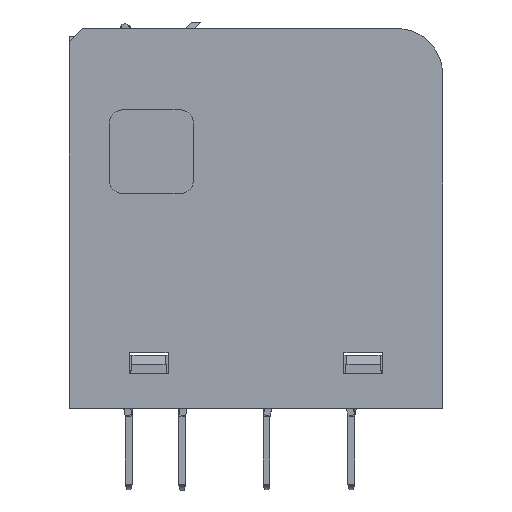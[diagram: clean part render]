
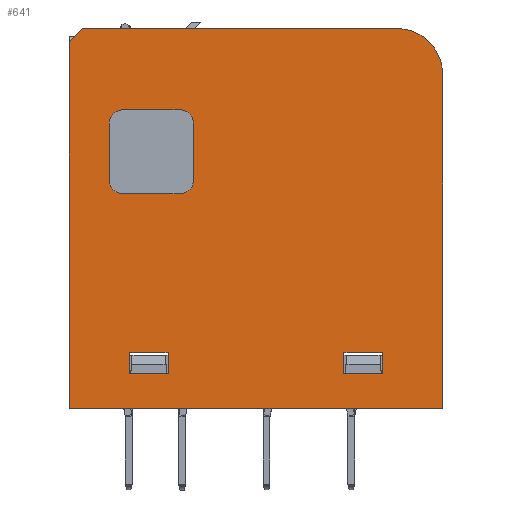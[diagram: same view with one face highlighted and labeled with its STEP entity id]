
A CAD part, top view. The second image highlights one B-rep face of the part: STEP entity #641.
In plain terms, the highlighted planar face has unit normal (0, 0, 1).
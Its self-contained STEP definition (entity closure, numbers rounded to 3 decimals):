
#641=ADVANCED_FACE('',(#8837,#8839,#8841,#8843),#8845,.T.);
#8837=FACE_BOUND('',#8838,.T.);
#8838=EDGE_LOOP('',(#15518,#15519,#15520,#15521,#15522,#15523));
#8839=FACE_BOUND('',#8840,.T.);
#8840=EDGE_LOOP('',(#15524,#15525,#15526,#15527,#15528,#15529,#15530,#15531));
#8841=FACE_BOUND('',#8842,.T.);
#8842=EDGE_LOOP('',(#15532,#15533,#15534,#15535));
#8843=FACE_BOUND('',#8844,.T.);
#8844=EDGE_LOOP('',(#15536,#15537,#15538,#15539));
#8845=PLANE('',#8846);
#8846=AXIS2_PLACEMENT_3D('',#8847,#8848,#8849);
#8847=CARTESIAN_POINT('',(0.,14.4,11.25));
#8848=DIRECTION('',(0.,0.,1.));
#8849=DIRECTION('',(0.,-1.,0.));
#15518=ORIENTED_EDGE('',*,*,#20133,.F.);
#15519=ORIENTED_EDGE('',*,*,#20134,.T.);
#15520=ORIENTED_EDGE('',*,*,#20135,.T.);
#15521=ORIENTED_EDGE('',*,*,#20136,.T.);
#15522=ORIENTED_EDGE('',*,*,#20137,.T.);
#15523=ORIENTED_EDGE('',*,*,#20138,.T.);
#15524=ORIENTED_EDGE('',*,*,#20139,.T.);
#15525=ORIENTED_EDGE('',*,*,#20140,.T.);
#15526=ORIENTED_EDGE('',*,*,#20141,.T.);
#15527=ORIENTED_EDGE('',*,*,#20142,.T.);
#15528=ORIENTED_EDGE('',*,*,#20143,.T.);
#15529=ORIENTED_EDGE('',*,*,#20144,.T.);
#15530=ORIENTED_EDGE('',*,*,#20145,.T.);
#15531=ORIENTED_EDGE('',*,*,#20146,.T.);
#15532=ORIENTED_EDGE('',*,*,#20147,.T.);
#15533=ORIENTED_EDGE('',*,*,#19903,.T.);
#15534=ORIENTED_EDGE('',*,*,#19875,.T.);
#15535=ORIENTED_EDGE('',*,*,#19972,.T.);
#15536=ORIENTED_EDGE('',*,*,#20148,.T.);
#15537=ORIENTED_EDGE('',*,*,#19917,.T.);
#15538=ORIENTED_EDGE('',*,*,#19867,.T.);
#15539=ORIENTED_EDGE('',*,*,#19912,.T.);
#19867=EDGE_CURVE('',#22288,#22286,#22289,.F.);
#19875=EDGE_CURVE('',#22304,#22302,#22305,.F.);
#19903=EDGE_CURVE('',#22354,#22304,#22355,.F.);
#19912=EDGE_CURVE('',#22286,#22368,#22370,.F.);
#19917=EDGE_CURVE('',#22378,#22288,#22379,.F.);
#19972=EDGE_CURVE('',#22302,#22475,#22477,.F.);
#20133=EDGE_CURVE('',#22738,#22739,#22740,.F.);
#20134=EDGE_CURVE('',#22738,#22741,#22742,.T.);
#20135=EDGE_CURVE('',#22741,#22743,#22744,.T.);
#20136=EDGE_CURVE('',#22743,#22745,#22746,.T.);
#20137=EDGE_CURVE('',#22745,#22747,#22748,.T.);
#20138=EDGE_CURVE('',#22747,#22739,#22749,.T.);
#20139=EDGE_CURVE('',#22750,#22751,#22752,.F.);
#20140=EDGE_CURVE('',#22751,#22753,#22754,.F.);
#20141=EDGE_CURVE('',#22753,#22755,#22756,.F.);
#20142=EDGE_CURVE('',#22755,#22757,#22758,.F.);
#20143=EDGE_CURVE('',#22757,#22759,#22760,.F.);
#20144=EDGE_CURVE('',#22759,#22761,#22762,.F.);
#20145=EDGE_CURVE('',#22761,#22763,#22764,.F.);
#20146=EDGE_CURVE('',#22763,#22750,#22765,.F.);
#20147=EDGE_CURVE('',#22475,#22354,#22766,.F.);
#20148=EDGE_CURVE('',#22368,#22378,#22767,.F.);
#22286=VERTEX_POINT('',#26237);
#22288=VERTEX_POINT('',#26241);
#22289=LINE('',#26242,#26243);
#22302=VERTEX_POINT('',#26269);
#22304=VERTEX_POINT('',#26273);
#22305=LINE('',#26274,#26275);
#22354=VERTEX_POINT('',#26379);
#22355=LINE('',#26380,#26381);
#22368=VERTEX_POINT('',#26409);
#22370=LINE('',#26413,#26414);
#22378=VERTEX_POINT('',#26431);
#22379=LINE('',#26432,#26433);
#22475=VERTEX_POINT('',#26638);
#22477=LINE('',#26642,#26643);
#22738=VERTEX_POINT('',#27254);
#22739=VERTEX_POINT('',#27255);
#22740=LINE('',#27256,#27257);
#22741=VERTEX_POINT('',#27259);
#22742=LINE('',#27260,#27261);
#22743=VERTEX_POINT('',#27263);
#22744=LINE('',#27264,#27265);
#22745=VERTEX_POINT('',#27267);
#22746=LINE('',#27268,#27269);
#22747=VERTEX_POINT('',#27271);
#22748=CIRCLE('',#27272,3.4);
#22749=LINE('',#27276,#27277);
#22750=VERTEX_POINT('',#27279);
#22751=VERTEX_POINT('',#27280);
#22752=CIRCLE('',#27281,1.);
#22753=VERTEX_POINT('',#27285);
#22754=LINE('',#27286,#27287);
#22755=VERTEX_POINT('',#27289);
#22756=CIRCLE('',#27290,1.);
#22757=VERTEX_POINT('',#27294);
#22758=LINE('',#27295,#27296);
#22759=VERTEX_POINT('',#27298);
#22760=CIRCLE('',#27299,1.);
#22761=VERTEX_POINT('',#27303);
#22762=LINE('',#27304,#27305);
#22763=VERTEX_POINT('',#27307);
#22764=CIRCLE('',#27308,1.);
#22765=LINE('',#27312,#27313);
#22766=LINE('',#27315,#27316);
#22767=LINE('',#27318,#27319);
#26237=CARTESIAN_POINT('',(6.6,2.6,11.25));
#26241=CARTESIAN_POINT('',(9.5,2.6,11.25));
#26242=CARTESIAN_POINT('',(6.6,2.6,11.25));
#26243=VECTOR('',#26244,1.);
#26244=DIRECTION('',(1.,0.,0.));
#26269=CARTESIAN_POINT('',(-9.5,2.6,11.25));
#26273=CARTESIAN_POINT('',(-6.6,2.6,11.25));
#26274=CARTESIAN_POINT('',(-9.5,2.6,11.25));
#26275=VECTOR('',#26276,1.);
#26276=DIRECTION('',(1.,0.,0.));
#26379=CARTESIAN_POINT('',(-6.6,4.2,11.25));
#26380=CARTESIAN_POINT('',(-6.6,2.6,11.25));
#26381=VECTOR('',#26382,1.);
#26382=DIRECTION('',(0.,1.,0.));
#26409=CARTESIAN_POINT('',(6.6,4.2,11.25));
#26413=CARTESIAN_POINT('',(6.6,4.2,11.25));
#26414=VECTOR('',#26415,1.);
#26415=DIRECTION('',(0.,-1.,0.));
#26431=CARTESIAN_POINT('',(9.5,4.2,11.25));
#26432=CARTESIAN_POINT('',(9.5,2.6,11.25));
#26433=VECTOR('',#26434,1.);
#26434=DIRECTION('',(0.,1.,0.));
#26638=CARTESIAN_POINT('',(-9.5,4.2,11.25));
#26642=CARTESIAN_POINT('',(-9.5,4.2,11.25));
#26643=VECTOR('',#26644,1.);
#26644=DIRECTION('',(0.,-1.,0.));
#27254=CARTESIAN_POINT('',(-14.,27.5,11.25));
#27255=CARTESIAN_POINT('',(-13.,28.5,11.25));
#27256=CARTESIAN_POINT('',(-13.,28.5,11.25));
#27257=VECTOR('',#27258,1.);
#27258=DIRECTION('',(-0.707,-0.707,0.));
#27259=CARTESIAN_POINT('',(-14.,0.,11.25));
#27260=CARTESIAN_POINT('',(-14.,27.5,11.25));
#27261=VECTOR('',#27262,1.);
#27262=DIRECTION('',(0.,-1.,0.));
#27263=CARTESIAN_POINT('',(14.,0.,11.25));
#27264=CARTESIAN_POINT('',(-14.,0.,11.25));
#27265=VECTOR('',#27266,1.);
#27266=DIRECTION('',(1.,0.,0.));
#27267=CARTESIAN_POINT('',(14.,25.1,11.25));
#27268=CARTESIAN_POINT('',(14.,0.,11.25));
#27269=VECTOR('',#27270,1.);
#27270=DIRECTION('',(0.,1.,0.));
#27271=CARTESIAN_POINT('',(10.6,28.5,11.25));
#27272=AXIS2_PLACEMENT_3D('',#27273,#27274,#27275);
#27273=CARTESIAN_POINT('',(10.6,25.1,11.25));
#27274=DIRECTION('',(0.,0.,1.));
#27275=DIRECTION('',(1.,0.,0.));
#27276=CARTESIAN_POINT('',(10.6,28.5,11.25));
#27277=VECTOR('',#27278,1.);
#27278=DIRECTION('',(-1.,0.,0.));
#27279=CARTESIAN_POINT('',(-11.,21.4,11.25));
#27280=CARTESIAN_POINT('',(-10.,22.4,11.25));
#27281=AXIS2_PLACEMENT_3D('',#27282,#27283,#27284);
#27282=CARTESIAN_POINT('',(-10.,21.4,11.25));
#27283=DIRECTION('',(0.,0.,1.));
#27284=DIRECTION('',(0.,1.,0.));
#27285=CARTESIAN_POINT('',(-5.7,22.4,11.25));
#27286=CARTESIAN_POINT('',(-5.7,22.4,11.25));
#27287=VECTOR('',#27288,1.);
#27288=DIRECTION('',(-1.,0.,0.));
#27289=CARTESIAN_POINT('',(-4.7,21.4,11.25));
#27290=AXIS2_PLACEMENT_3D('',#27291,#27292,#27293);
#27291=CARTESIAN_POINT('',(-5.7,21.4,11.25));
#27292=DIRECTION('',(0.,0.,1.));
#27293=DIRECTION('',(1.,0.,0.));
#27294=CARTESIAN_POINT('',(-4.7,17.1,11.25));
#27295=CARTESIAN_POINT('',(-4.7,17.1,11.25));
#27296=VECTOR('',#27297,1.);
#27297=DIRECTION('',(0.,1.,0.));
#27298=CARTESIAN_POINT('',(-5.7,16.1,11.25));
#27299=AXIS2_PLACEMENT_3D('',#27300,#27301,#27302);
#27300=CARTESIAN_POINT('',(-5.7,17.1,11.25));
#27301=DIRECTION('',(0.,0.,1.));
#27302=DIRECTION('',(0.,-1.,0.));
#27303=CARTESIAN_POINT('',(-10.,16.1,11.25));
#27304=CARTESIAN_POINT('',(-10.,16.1,11.25));
#27305=VECTOR('',#27306,1.);
#27306=DIRECTION('',(1.,0.,0.));
#27307=CARTESIAN_POINT('',(-11.,17.1,11.25));
#27308=AXIS2_PLACEMENT_3D('',#27309,#27310,#27311);
#27309=CARTESIAN_POINT('',(-10.,17.1,11.25));
#27310=DIRECTION('',(0.,0.,1.));
#27311=DIRECTION('',(-1.,0.,0.));
#27312=CARTESIAN_POINT('',(-11.,21.4,11.25));
#27313=VECTOR('',#27314,1.);
#27314=DIRECTION('',(0.,-1.,0.));
#27315=CARTESIAN_POINT('',(-6.6,4.2,11.25));
#27316=VECTOR('',#27317,1.);
#27317=DIRECTION('',(-1.,0.,0.));
#27318=CARTESIAN_POINT('',(9.5,4.2,11.25));
#27319=VECTOR('',#27320,1.);
#27320=DIRECTION('',(-1.,0.,0.));
